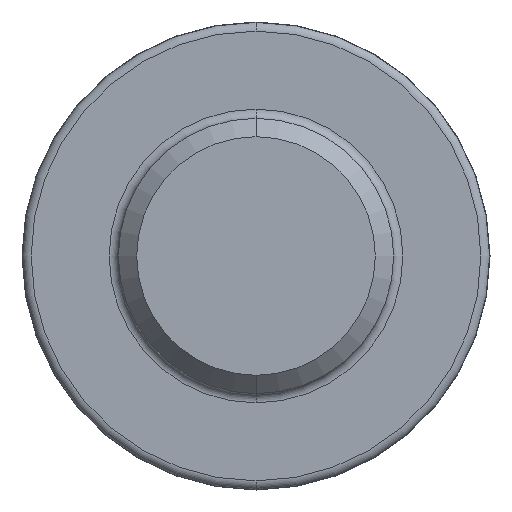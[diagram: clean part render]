
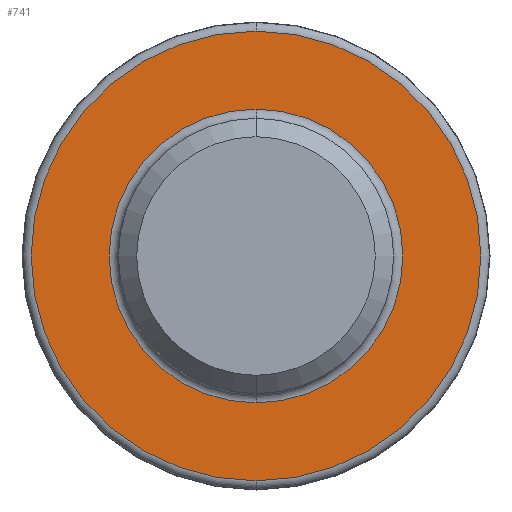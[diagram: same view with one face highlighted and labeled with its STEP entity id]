
A CAD part, front view. The second image highlights one B-rep face of the part: STEP entity #741.
In plain terms, the highlighted planar face has unit normal (0, -1, 0).
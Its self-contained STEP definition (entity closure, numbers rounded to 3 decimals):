
#13 = VERTEX_POINT ( 'NONE', #247 ) ;
#21 = VERTEX_POINT ( 'NONE', #702 ) ;
#68 = ORIENTED_EDGE ( 'NONE', *, *, #322, .T. ) ;
#82 = CIRCLE ( 'NONE', #418, 3.2 ) ;
#176 = FACE_BOUND ( 'NONE', #377, .T. ) ;
#197 = CARTESIAN_POINT ( 'NONE',  ( 0., -3.2, 0. ) ) ;
#247 = CARTESIAN_POINT ( 'NONE',  ( 0., -3.2, -3.2 ) ) ;
#308 = ORIENTED_EDGE ( 'NONE', *, *, #621, .T. ) ;
#322 = EDGE_CURVE ( 'NONE', #13, #21, #566, .T. ) ;
#337 = AXIS2_PLACEMENT_3D ( 'NONE', #339, #608, #667 ) ;
#339 = CARTESIAN_POINT ( 'NONE',  ( 0., -3.2, 0. ) ) ;
#365 = VERTEX_POINT ( 'NONE', #738 ) ;
#377 = EDGE_LOOP ( 'NONE', ( #462, #68 ) ) ;
#378 = CARTESIAN_POINT ( 'NONE',  ( 0., -3.2, 0. ) ) ;
#383 = DIRECTION ( 'NONE',  ( 0., 0., 1. ) ) ;
#418 = AXIS2_PLACEMENT_3D ( 'NONE', #843, #769, #383 ) ;
#436 = DIRECTION ( 'NONE',  ( 0., 0., 1. ) ) ;
#437 = EDGE_CURVE ( 'NONE', #762, #365, #757, .T. ) ;
#446 = DIRECTION ( 'NONE',  ( 0., 1., 0. ) ) ;
#456 = DIRECTION ( 'NONE',  ( 0., 0., 1. ) ) ;
#462 = ORIENTED_EDGE ( 'NONE', *, *, #713, .T. ) ;
#491 = CIRCLE ( 'NONE', #700, 4.9 ) ;
#515 = CARTESIAN_POINT ( 'NONE',  ( 0., -3.2, 4.9 ) ) ;
#566 = CIRCLE ( 'NONE', #785, 3.2 ) ;
#567 = PLANE ( 'NONE',  #636 ) ;
#575 = DIRECTION ( 'NONE',  ( 0., 0., 1. ) ) ;
#583 = DIRECTION ( 'NONE',  ( 0., -1., 0. ) ) ;
#608 = DIRECTION ( 'NONE',  ( 0., -1., 0. ) ) ;
#621 = EDGE_CURVE ( 'NONE', #365, #762, #491, .T. ) ;
#628 = ORIENTED_EDGE ( 'NONE', *, *, #437, .T. ) ;
#634 = FACE_OUTER_BOUND ( 'NONE', #853, .T. ) ;
#636 = AXIS2_PLACEMENT_3D ( 'NONE', #764, #446, #575 ) ;
#667 = DIRECTION ( 'NONE',  ( 0., 0., 1. ) ) ;
#700 = AXIS2_PLACEMENT_3D ( 'NONE', #378, #583, #436 ) ;
#702 = CARTESIAN_POINT ( 'NONE',  ( 0., -3.2, 3.2 ) ) ;
#713 = EDGE_CURVE ( 'NONE', #21, #13, #82, .T. ) ;
#738 = CARTESIAN_POINT ( 'NONE',  ( 0., -3.2, -4.9 ) ) ;
#741 = ADVANCED_FACE ( 'NONE', ( #176, #634 ), #567, .F. ) ;
#757 = CIRCLE ( 'NONE', #337, 4.9 ) ;
#762 = VERTEX_POINT ( 'NONE', #515 ) ;
#764 = CARTESIAN_POINT ( 'NONE',  ( 3., -3.2, 0. ) ) ;
#769 = DIRECTION ( 'NONE',  ( 0., 1., 0. ) ) ;
#785 = AXIS2_PLACEMENT_3D ( 'NONE', #197, #789, #456 ) ;
#789 = DIRECTION ( 'NONE',  ( 0., 1., 0. ) ) ;
#843 = CARTESIAN_POINT ( 'NONE',  ( 0., -3.2, 0. ) ) ;
#853 = EDGE_LOOP ( 'NONE', ( #628, #308 ) ) ;
